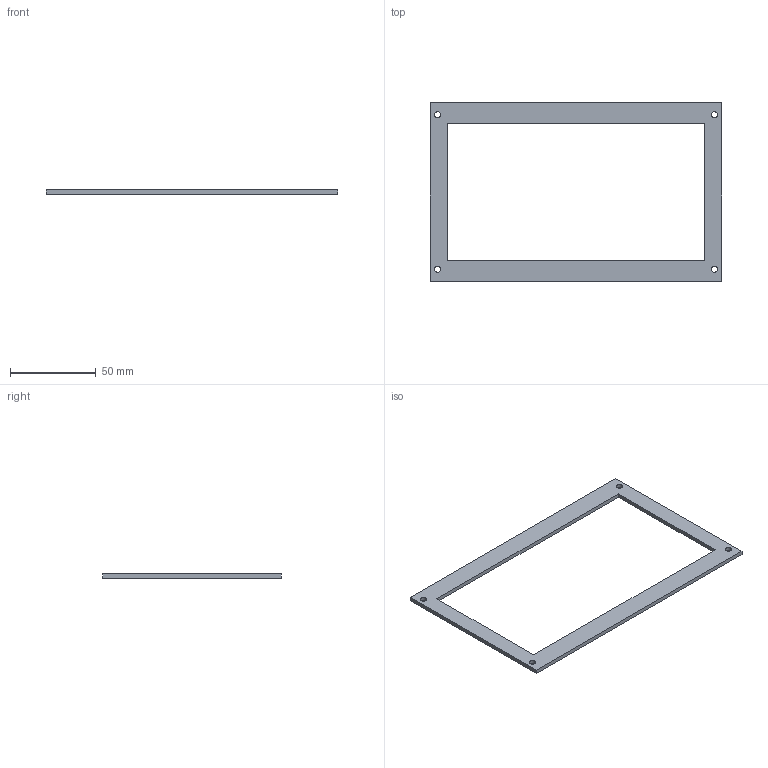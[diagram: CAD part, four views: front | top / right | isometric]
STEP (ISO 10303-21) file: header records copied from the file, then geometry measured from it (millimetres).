
FILE_DESCRIPTION(('Open CASCADE Model'),'2;1');
FILE_NAME('Open CASCADE Shape Model','2026-10-06T15:21:37',('Author'),( 'Open CASCADE'),'Open CASCADE STEP processor 7.9','Open CASCADE 7.9' ,'Unknown');
FILE_SCHEMA(('AUTOMOTIVE_DESIGN { 1 0 10303 214 1 1 1 1 }'));
Length unit declared in the file: millimetre
Products named in the file (1): Open CASCADE STEP translator 7.9 3
Bounding box: 170 x 104 x 2.4 mm (x, y, z)
Volume: 13534.3 mm3; surface area: 13806.3 mm2
Topology: 1 solids, 1 shells, 14 faces, 36 edges, 24 vertices
Faces by surface type: plane 10, cylinder 4
Full cylindrical faces by diameter (mm): 3.6 x4
Entity records: 910 total; most frequent: CARTESIAN_POINT 163, DIRECTION 130, LINE 76, VECTOR 76, ORIENTED_EDGE 72, PCURVE 72, DEFINITIONAL_REPRESENTATION 72, EDGE_CURVE 36
